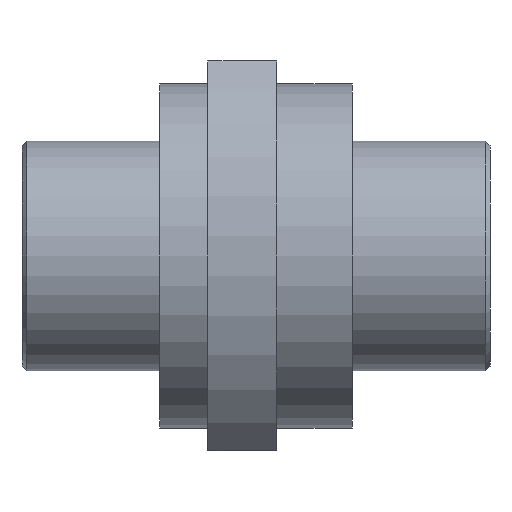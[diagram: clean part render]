
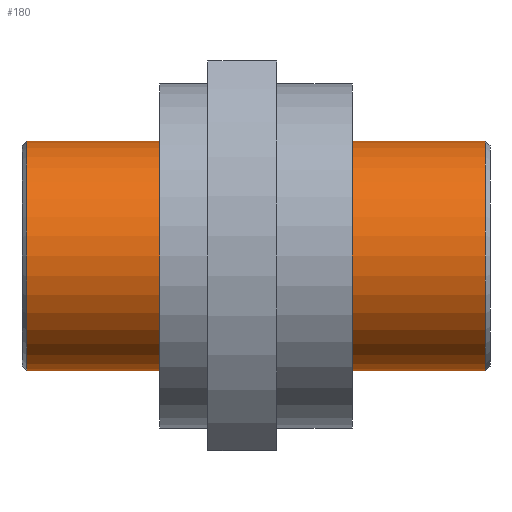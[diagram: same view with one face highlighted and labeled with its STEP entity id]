
A CAD part, front view. The second image highlights one B-rep face of the part: STEP entity #180.
In plain terms, the highlighted cylindrical face has radius 25 mm (diameter 50 mm), a full revolution.
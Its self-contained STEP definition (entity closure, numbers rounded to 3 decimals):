
#134=CYLINDRICAL_SURFACE('',#861,25.);
#180=ADVANCED_FACE('',(#315,#316),#134,.T.);
#315=FACE_BOUND('',#429,.T.);
#316=FACE_BOUND('',#430,.T.);
#429=EDGE_LOOP('',(#561));
#430=EDGE_LOOP('',(#562));
#561=ORIENTED_EDGE('',*,*,#701,.T.);
#562=ORIENTED_EDGE('',*,*,#702,.T.);
#635=VERTEX_POINT('',#1261);
#636=VERTEX_POINT('',#1263);
#701=EDGE_CURVE('',#635,#635,#759,.T.);
#702=EDGE_CURVE('',#636,#636,#760,.T.);
#759=CIRCLE('',#859,25.);
#760=CIRCLE('',#860,25.);
#859=AXIS2_PLACEMENT_3D('',#1260,#1068,#1069);
#860=AXIS2_PLACEMENT_3D('',#1262,#1070,#1071);
#861=AXIS2_PLACEMENT_3D('',#1264,#1072,#1073);
#1068=DIRECTION('',(-1.,0.,0.));
#1069=DIRECTION('',(0.,0.,-1.));
#1070=DIRECTION('',(1.,0.,0.));
#1071=DIRECTION('',(0.,0.,1.));
#1072=DIRECTION('',(-1.,0.,0.));
#1073=DIRECTION('',(0.,0.,1.));
#1260=CARTESIAN_POINT('',(405.107,60.088,2.606));
#1261=CARTESIAN_POINT('',(405.107,60.088,-22.394));
#1262=CARTESIAN_POINT('',(305.107,60.088,2.606));
#1263=CARTESIAN_POINT('',(305.107,60.088,27.606));
#1264=CARTESIAN_POINT('',(355.107,60.088,2.606));
